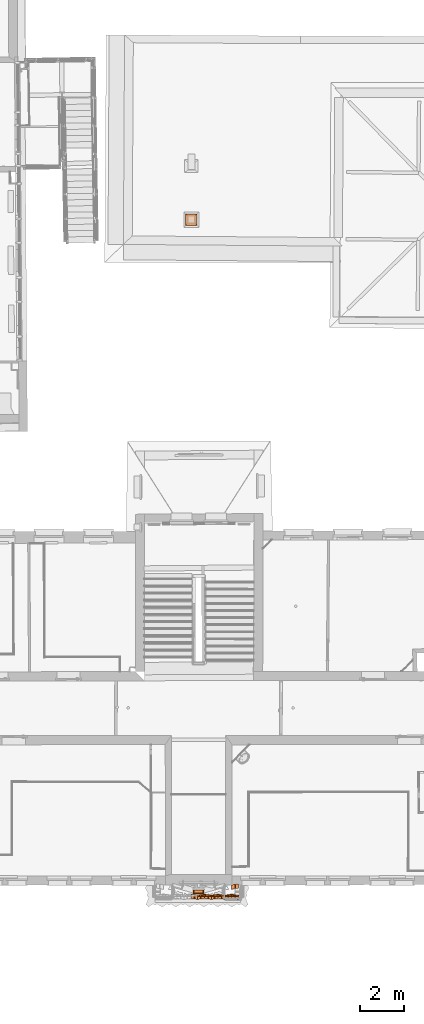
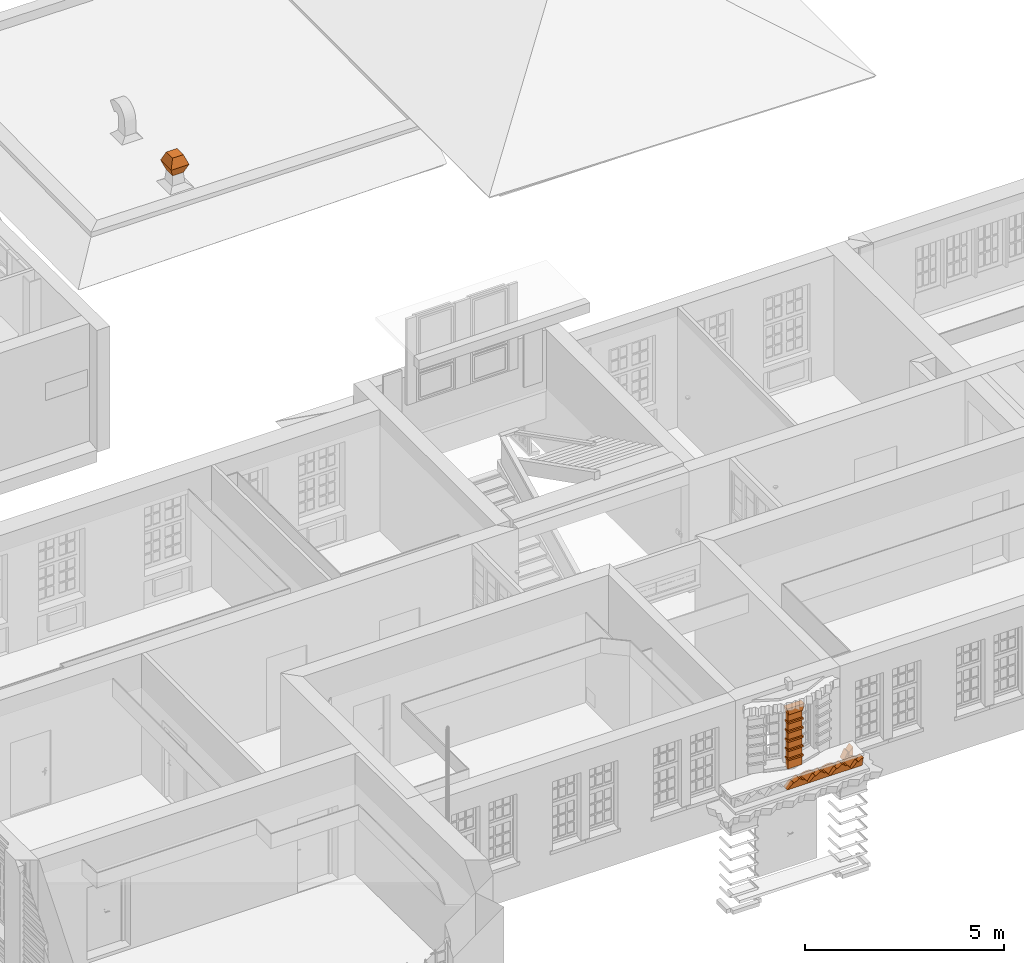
# One storey, part 141 of 158: 22 proxies.
"""IFC2X3 building model written with IfcOpenShell, lengths in metres."""

from ifc_helpers import new_model, entity, si_unit, converted_unit, derived_unit, money_unit, direction, frame, origin_with_axes, place, context, subcontext, project, spatial, faceted_brep, source, transform, mapped, material, type_object, element, save


model = new_model("IFC2X3")

# Units and contexts
model_context = context("Model", 3, precision=1e-05, world=origin_with_axes(), true_north=direction((0.0, 1.0)))
body_context = subcontext(model_context, "Body", "Model", "MODEL_VIEW")
ifc_project = project(units=[si_unit("LENGTHUNIT", "METRE"), si_unit("AREAUNIT", "SQUARE_METRE"), si_unit("VOLUMEUNIT", "CUBIC_METRE"), converted_unit("PLANEANGLEUNIT", "DEGREE", entity("IfcPlaneAngleMeasure", 0.0174532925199), si_unit("PLANEANGLEUNIT", "RADIAN"), dimensions=[0, 0, 0, 0, 0, 0, 0]), money_unit("EUR"), converted_unit("TIMEUNIT", "Year", entity("IfcTimeMeasure", 31556926.0), si_unit("TIMEUNIT", "SECOND"), dimensions=[0, 0, 1, 0, 0, 0, 0]), si_unit("MASSUNIT", "GRAM", prefix="KILO"), si_unit("THERMODYNAMICTEMPERATUREUNIT", "DEGREE_CELSIUS"), si_unit("LUMINOUSINTENSITYUNIT", "LUMEN"), si_unit("ENERGYUNIT", "JOULE", prefix="MEGA"), derived_unit("THERMALCONDUCTANCEUNIT", [(si_unit("POWERUNIT", "WATT"), 1), (si_unit("LENGTHUNIT", "METRE"), -1), (si_unit("THERMODYNAMICTEMPERATUREUNIT", "KELVIN"), -1)]), derived_unit("SPECIFICHEATCAPACITYUNIT", [(si_unit("ENERGYUNIT", "JOULE"), 1), (si_unit("MASSUNIT", "GRAM", prefix="KILO"), -1), (si_unit("THERMODYNAMICTEMPERATUREUNIT", "KELVIN"), -1)]), derived_unit("MASSDENSITYUNIT", [(si_unit("MASSUNIT", "GRAM", prefix="KILO"), 1), (si_unit("VOLUMEUNIT", "CUBIC_METRE"), -1)])], contexts=[model_context])

# Site, building, storey
site_placement = place(None, origin_with_axes())
site = spatial("IfcSite", under=ifc_project, at=site_placement, Name="Gelände", CompositionType="ELEMENT")
building_placement = place(site_placement, origin_with_axes())
building = spatial("IfcBuilding", under=site, at=building_placement, Name="Gebäude", CompositionType="ELEMENT")
storey_placement = place(building_placement, origin_with_axes())
storey = spatial("IfcBuildingStorey", under=building, at=storey_placement, Name="ERDGESCHOSS", CompositionType="ELEMENT", Elevation=0.0)

# Proxies
ifc_material = material(Name="01_ALLGEMEIN - BAUTEIL")
building_element_proxy_type = type_object("IfcBuildingElementProxyType", Name="01_ALLGEMEIN - BAUTEIL", PredefinedType="NOTDEFINED")
shared_shape_1 = source(origin_with_axes(), body_context, "Body", "Brep", [
    faceted_brep([(-0.405369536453, -0.125335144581, 0.282016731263), (-0.405369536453, -0.125335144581, 0.0), (0.0, -0.125335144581, 0.0), (0.0, -0.125335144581, 0.282016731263), (-0.405369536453, 0.0, 0.282016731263), (-0.405369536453, 0.0, 0.0), (0.0, 0.0, 0.0), (0.0, 0.0, 0.282016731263)], [[[0, 1, 2, 3]], [[1, 0, 4, 5]], [[5, 6, 2, 1]], [[3, 2, 6, 7]], [[0, 3, 7, 4]], [[6, 5, 4, 7]]]),
])
proxy_1_placement = place(storey_placement, frame((-7.58127992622, 9.62640158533, 1.2709685), z_axis=(0.0, 0.0, 1.0), x_axis=(-1.0, 0.0, 0.0)))
element("IfcBuildingElementProxy", 1, at=proxy_1_placement, inside=storey, type_object=building_element_proxy_type, material=ifc_material, Name="Morph-174", context=body_context, shape_type="MappedRepresentation", body=[
    mapped(shared_shape_1, transform((0.0, 0.0, 0.0))),
])
shared_shape_2 = source(origin_with_axes(), body_context, "Body", "Brep", [
    faceted_brep([(-0.02, -0.125335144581, 0.05), (0.425369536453, -0.125335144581, 0.05), (0.425369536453, 0.05, 0.05), (-0.02, 0.05, 0.05), (-0.02, -0.125335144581, 0.0), (0.425369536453, -0.125335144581, 0.0), (0.425369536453, 0.05, 0.0), (-0.02, 0.05, 0.0)], [[[0, 1, 2, 3]], [[0, 4, 5, 1]], [[1, 5, 6, 2]], [[6, 7, 3, 2]], [[4, 0, 3, 7]], [[7, 6, 5, 4]]]),
])
proxy_2_placement = place(storey_placement, frame((-7.17591038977, 9.62640158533, 1.55298523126), z_axis=(0.0, 0.0, 1.0), x_axis=(-1.0, 0.0, 0.0)))
element("IfcBuildingElementProxy", 2, at=proxy_2_placement, inside=storey, type_object=building_element_proxy_type, material=ifc_material, Name="Morph-175", context=body_context, shape_type="MappedRepresentation", body=[
    mapped(shared_shape_2, transform((0.0, 0.0, 0.0))),
])
shared_shape_3 = source(origin_with_axes(), body_context, "Body", "Brep", [
    faceted_brep([(-0.405369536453, -0.125335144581, 0.0), (-0.405369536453, -0.125335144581, -0.232016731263), (0.0, -0.125335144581, -0.232016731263), (0.0, -0.125335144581, 0.0), (-0.405369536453, 0.0, 0.0), (-0.405369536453, 0.0, -0.232016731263), (0.0, 0.0, -0.232016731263), (0.0, 0.0, 0.0)], [[[0, 1, 2, 3]], [[1, 0, 4, 5]], [[2, 1, 5, 6]], [[3, 2, 6, 7]], [[7, 4, 0, 3]], [[4, 7, 6, 5]]]),
])
proxy_3_placement = place(storey_placement, frame((-7.58127992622, 9.62640158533, 1.83500196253), z_axis=(0.0, 0.0, 1.0), x_axis=(-1.0, 0.0, 0.0)))
element("IfcBuildingElementProxy", 3, at=proxy_3_placement, inside=storey, type_object=building_element_proxy_type, material=ifc_material, Name="Morph-176", context=body_context, shape_type="MappedRepresentation", body=[
    mapped(shared_shape_3, transform((0.0, 0.0, 0.0))),
])
shared_shape_4 = source(origin_with_axes(), body_context, "Body", "Brep", [
    faceted_brep([(0.02, -0.125335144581, -0.05), (-0.425369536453, -0.125335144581, -0.05), (-0.425369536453, 0.05, -0.05), (0.02, 0.05, -0.05), (-0.425369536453, -0.125335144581, 0.0), (0.02, -0.125335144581, 0.0), (-0.425369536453, 0.05, 0.0), (0.02, 0.05, 0.0)], [[[0, 1, 2, 3]], [[4, 1, 0, 5]], [[1, 4, 6, 2]], [[6, 7, 3, 2]], [[5, 0, 3, 7]], [[7, 6, 4, 5]]]),
])
proxy_4_placement = place(storey_placement, frame((-7.58127992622, 9.62640158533, 1.88500196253), z_axis=(0.0, 0.0, 1.0), x_axis=(-1.0, 0.0, 0.0)))
element("IfcBuildingElementProxy", 4, at=proxy_4_placement, inside=storey, type_object=building_element_proxy_type, material=ifc_material, Name="Morph-177", context=body_context, shape_type="MappedRepresentation", body=[
    mapped(shared_shape_4, transform((0.0, 0.0, 0.0))),
])
shared_shape_5 = source(origin_with_axes(), body_context, "Body", "Brep", [
    faceted_brep([(-0.405369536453, -0.125335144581, 0.0), (-0.405369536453, -0.125335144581, -0.232016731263), (0.0, -0.125335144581, -0.232016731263), (0.0, -0.125335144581, 0.0), (-0.405369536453, 0.0, 0.0), (-0.405369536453, 0.0, -0.232016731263), (0.0, 0.0, -0.232016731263), (0.0, 0.0, 0.0)], [[[0, 1, 2, 3]], [[1, 0, 4, 5]], [[2, 1, 5, 6]], [[3, 2, 6, 7]], [[7, 4, 0, 3]], [[4, 7, 6, 5]]]),
])
proxy_5_placement = place(storey_placement, frame((-7.58127992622, 9.62640158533, 2.11701869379), z_axis=(0.0, 0.0, 1.0), x_axis=(-1.0, 0.0, 0.0)))
element("IfcBuildingElementProxy", 5, at=proxy_5_placement, inside=storey, type_object=building_element_proxy_type, material=ifc_material, Name="Morph-178", context=body_context, shape_type="MappedRepresentation", body=[
    mapped(shared_shape_5, transform((0.0, 0.0, 0.0))),
])
shared_shape_6 = source(origin_with_axes(), body_context, "Body", "Brep", [
    faceted_brep([(0.02, -0.125335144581, -0.05), (-0.425369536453, -0.125335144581, -0.05), (-0.425369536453, 0.05, -0.05), (0.02, 0.05, -0.05), (-0.425369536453, -0.125335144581, 0.0), (0.02, -0.125335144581, 0.0), (-0.425369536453, 0.05, 0.0), (0.02, 0.05, 0.0)], [[[0, 1, 2, 3]], [[4, 1, 0, 5]], [[1, 4, 6, 2]], [[6, 7, 3, 2]], [[5, 0, 3, 7]], [[7, 6, 4, 5]]]),
])
proxy_6_placement = place(storey_placement, frame((-7.58127992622, 9.62640158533, 2.16701869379), z_axis=(0.0, 0.0, 1.0), x_axis=(-1.0, 0.0, 0.0)))
element("IfcBuildingElementProxy", 6, at=proxy_6_placement, inside=storey, type_object=building_element_proxy_type, material=ifc_material, Name="Morph-179", context=body_context, shape_type="MappedRepresentation", body=[
    mapped(shared_shape_6, transform((0.0, 0.0, 0.0))),
])
shared_shape_7 = source(origin_with_axes(), body_context, "Body", "Brep", [
    faceted_brep([(-0.405369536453, -0.125335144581, 0.0), (-0.405369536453, -0.125335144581, -0.232016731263), (0.0, -0.125335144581, -0.232016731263), (0.0, -0.125335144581, 0.0), (-0.405369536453, 0.0, 0.0), (-0.405369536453, 0.0, -0.232016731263), (0.0, 0.0, -0.232016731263), (0.0, 0.0, 0.0)], [[[0, 1, 2, 3]], [[1, 0, 4, 5]], [[2, 1, 5, 6]], [[3, 2, 6, 7]], [[7, 4, 0, 3]], [[4, 7, 6, 5]]]),
])
proxy_7_placement = place(storey_placement, frame((-7.58127992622, 9.62640158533, 2.39903542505), z_axis=(0.0, 0.0, 1.0), x_axis=(-1.0, 0.0, 0.0)))
element("IfcBuildingElementProxy", 7, at=proxy_7_placement, inside=storey, type_object=building_element_proxy_type, material=ifc_material, Name="Morph-180", context=body_context, shape_type="MappedRepresentation", body=[
    mapped(shared_shape_7, transform((0.0, 0.0, 0.0))),
])
shared_shape_8 = source(origin_with_axes(), body_context, "Body", "Brep", [
    faceted_brep([(0.02, -0.125335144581, -0.05), (-0.425369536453, -0.125335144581, -0.05), (-0.425369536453, 0.05, -0.05), (0.02, 0.05, -0.05), (-0.425369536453, -0.125335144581, 0.0), (0.02, -0.125335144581, 0.0), (-0.425369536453, 0.05, 0.0), (0.02, 0.05, 0.0)], [[[0, 1, 2, 3]], [[4, 1, 0, 5]], [[1, 4, 6, 2]], [[6, 7, 3, 2]], [[5, 0, 3, 7]], [[7, 6, 4, 5]]]),
])
proxy_8_placement = place(storey_placement, frame((-7.58127992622, 9.62640158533, 2.44903542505), z_axis=(0.0, 0.0, 1.0), x_axis=(-1.0, 0.0, 0.0)))
element("IfcBuildingElementProxy", 8, at=proxy_8_placement, inside=storey, type_object=building_element_proxy_type, material=ifc_material, Name="Morph-181", context=body_context, shape_type="MappedRepresentation", body=[
    mapped(shared_shape_8, transform((0.0, 0.0, 0.0))),
])
shared_shape_9 = source(origin_with_axes(), body_context, "Body", "Brep", [
    faceted_brep([(-0.405369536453, -0.125335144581, 0.0), (-0.405369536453, -0.125335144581, -0.232016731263), (0.0, -0.125335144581, -0.232016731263), (0.0, -0.125335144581, 0.0), (-0.405369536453, 0.0, 0.0), (-0.405369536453, 0.0, -0.232016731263), (0.0, 0.0, -0.232016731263), (0.0, 0.0, 0.0)], [[[0, 1, 2, 3]], [[1, 0, 4, 5]], [[2, 1, 5, 6]], [[3, 2, 6, 7]], [[7, 4, 0, 3]], [[4, 7, 6, 5]]]),
])
proxy_9_placement = place(storey_placement, frame((-7.58127992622, 9.62640158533, 2.68105215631), z_axis=(0.0, 0.0, 1.0), x_axis=(-1.0, 0.0, 0.0)))
element("IfcBuildingElementProxy", 9, at=proxy_9_placement, inside=storey, type_object=building_element_proxy_type, material=ifc_material, Name="Morph-182", context=body_context, shape_type="MappedRepresentation", body=[
    mapped(shared_shape_9, transform((0.0, 0.0, 0.0))),
])
shared_shape_10 = source(origin_with_axes(), body_context, "Body", "Brep", [
    faceted_brep([(0.02, -0.125335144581, -0.05), (-0.425369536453, -0.125335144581, -0.05), (-0.425369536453, 0.05, -0.05), (0.02, 0.05, -0.05), (-0.425369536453, -0.125335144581, 0.0), (0.02, -0.125335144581, 0.0), (-0.425369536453, 0.05, 0.0), (0.02, 0.05, 0.0)], [[[0, 1, 2, 3]], [[4, 1, 0, 5]], [[1, 4, 6, 2]], [[6, 7, 3, 2]], [[5, 0, 3, 7]], [[7, 6, 4, 5]]]),
])
proxy_10_placement = place(storey_placement, frame((-7.58127992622, 9.62640158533, 2.73105215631), z_axis=(0.0, 0.0, 1.0), x_axis=(-1.0, 0.0, 0.0)))
element("IfcBuildingElementProxy", 10, at=proxy_10_placement, inside=storey, type_object=building_element_proxy_type, material=ifc_material, Name="Morph-183", context=body_context, shape_type="MappedRepresentation", body=[
    mapped(shared_shape_10, transform((0.0, 0.0, 0.0))),
])
shared_shape_11 = source(origin_with_axes(), body_context, "Body", "Brep", [
    faceted_brep([(-0.405369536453, -0.125335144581, 0.0), (-0.405369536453, -0.125335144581, -0.232016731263), (0.0, -0.125335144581, -0.232016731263), (0.0, -0.125335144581, 0.0), (-0.405369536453, 0.0, 0.0), (-0.405369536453, 0.0, -0.232016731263), (0.0, 0.0, -0.232016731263), (0.0, 0.0, 0.0)], [[[0, 1, 2, 3]], [[1, 0, 4, 5]], [[2, 1, 5, 6]], [[3, 2, 6, 7]], [[7, 4, 0, 3]], [[4, 7, 6, 5]]]),
])
proxy_11_placement = place(storey_placement, frame((-7.58127992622, 9.62640158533, 2.96306888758), z_axis=(0.0, 0.0, 1.0), x_axis=(-1.0, 0.0, 0.0)))
element("IfcBuildingElementProxy", 11, at=proxy_11_placement, inside=storey, type_object=building_element_proxy_type, material=ifc_material, Name="Morph-184", context=body_context, shape_type="MappedRepresentation", body=[
    mapped(shared_shape_11, transform((0.0, 0.0, 0.0))),
])
shared_shape_12 = source(origin_with_axes(), body_context, "Body", "Brep", [
    faceted_brep([(-0.505369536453, 0.05, 0.0), (-0.505369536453, -0.125335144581, 0.0), (0.0, -0.125335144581, 0.0), (0.0, 0.05, 0.0), (-0.455369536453, -0.125335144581, -0.194111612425), (-0.455369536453, 0.05, -0.194111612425), (-0.05, -0.125335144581, -0.194111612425), (-0.05, 0.05, -0.194111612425)], [[[0, 1, 2, 3]], [[4, 1, 0, 5]], [[1, 4, 6, 2]], [[6, 7, 3, 2]], [[7, 5, 0, 3]], [[5, 7, 6, 4]]]),
])
proxy_12_placement = place(storey_placement, frame((-7.63127992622, 9.62640158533, 3.1571805), z_axis=(0.0, 0.0, 1.0), x_axis=(-1.0, 0.0, 0.0)))
element("IfcBuildingElementProxy", 12, at=proxy_12_placement, inside=storey, type_object=building_element_proxy_type, material=ifc_material, Name="Morph-185", context=body_context, shape_type="MappedRepresentation", body=[
    mapped(shared_shape_12, transform((0.0, 0.0, 0.0))),
])
shared_shape_13 = source(origin_with_axes(), body_context, "Body", "Brep", [
    faceted_brep([(-0.302076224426, 0.0, 0.0689469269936), (-0.279160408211, 0.0, 0.134436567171), (-0.279160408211, 0.05, 0.134436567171), (-0.302076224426, 0.05, 0.0689469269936), (-0.309844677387, 0.0, 0.0), (0.309844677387, 0.0, 0.0), (0.302076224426, 0.0, 0.0689469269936), (0.279160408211, 0.0, 0.134436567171), (0.242246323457, 0.0, 0.193184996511), (0.193184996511, 0.0, 0.242246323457), (0.134436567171, 0.0, 0.279160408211), (0.0689469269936, 0.0, 0.302076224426), (0.0, 0.0, 0.309844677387), (-0.0689469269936, 0.0, 0.302076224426), (-0.134436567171, 0.0, 0.279160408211), (-0.193184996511, 0.0, 0.242246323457), (-0.242246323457, 0.0, 0.193184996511), (-0.242246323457, 0.05, 0.193184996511), (-0.309844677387, 0.05, 0.0), (-0.193184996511, 0.05, 0.242246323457), (-0.134436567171, 0.05, 0.279160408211), (-0.0689469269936, 0.05, 0.302076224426), (0.0, 0.05, 0.309844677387), (0.0689469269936, 0.05, 0.302076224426), (0.134436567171, 0.05, 0.279160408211), (0.193184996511, 0.05, 0.242246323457), (0.242246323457, 0.05, 0.193184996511), (0.279160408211, 0.05, 0.134436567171), (0.302076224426, 0.05, 0.0689469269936), (0.309844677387, 0.05, 0.0)], [[[0, 1, 2, 3]], [[0, 4, 5, 6, 7, 8, 9, 10, 11, 12, 13, 14, 15, 16, 1]], [[1, 16, 17, 2]], [[18, 3, 2, 17, 19, 20, 21, 22, 23, 24, 25, 26, 27, 28, 29]], [[4, 0, 3, 18]], [[4, 18, 29, 5]], [[6, 5, 29, 28]], [[27, 7, 6, 28]], [[8, 7, 27, 26]], [[9, 8, 26, 25]], [[10, 9, 25, 24]], [[11, 10, 24, 23]], [[12, 11, 23, 22]], [[13, 12, 22, 21]], [[14, 13, 21, 20]], [[15, 14, 20, 19]], [[16, 15, 19, 17]]]),
])
for number, where, z_axis, x_axis, name in (
    (13, (-5.87443196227, 9.47253947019, 0.8259985), (0.0, 0.0, 1.0), (1.0, 0.0, 0.0), "Morph-186"),
    (14, (-7.11381067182, 9.47253947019, 0.8259985), (0.0, 0.0, 1.0), (1.0, 0.0, 0.0), "Morph-186"),
    (15, (-6.49412131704, 9.47253947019, 0.8259985), (0.0, 0.0, 1.0), (1.0, 0.0, 0.0), "Morph-186"),
):
    element("IfcBuildingElementProxy", number, at=place(storey_placement, frame(where, z_axis=z_axis, x_axis=x_axis)), inside=storey, type_object=building_element_proxy_type, material=ifc_material, Name=name, context=body_context, shape_type="MappedRepresentation", body=[
        mapped(shared_shape_13, transform((0.0, 0.0, 0.0))),
    ])
shared_shape_14 = source(origin_with_axes(), body_context, "Body", "Brep", [
    faceted_brep([(-0.105921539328, -0.421296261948, 0.676382), (-0.105921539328, 0.105921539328, 0.676382), (0.417273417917, 0.105921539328, 0.676382), (0.417273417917, -0.421296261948, 0.676382), (0.0, -0.31537472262, 0.949425), (0.0, 0.0, 0.949425), (0.311351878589, 0.0, 0.949425), (0.311351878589, -0.31537472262, 0.949425)], [[[0, 1, 2, 3]], [[1, 0, 4, 5]], [[1, 5, 6, 2]], [[6, 7, 3, 2]], [[4, 0, 3, 7]], [[4, 7, 6, 5]]]),
])
for number, where, z_axis, x_axis, name in (
    (16, (-7.87110913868, 40.3717446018, 0.716725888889), (0.0, 0.0, 1.0), (1.0, 0.0, 0.0), "Morph-293"),
    (17, (-7.87110913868, 40.0563698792, 2.06948988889), (0.0, 0.0, -1.0), (1.0, 0.0, 0.0), "Morph-293"),
):
    element("IfcBuildingElementProxy", number, at=place(storey_placement, frame(where, z_axis=z_axis, x_axis=x_axis)), inside=storey, type_object=building_element_proxy_type, material=ifc_material, Name=name, context=body_context, shape_type="MappedRepresentation", body=[
        mapped(shared_shape_14, transform((0.0, 0.0, 0.0))),
    ])
shared_shape_15 = source(origin_with_axes(), body_context, "Body", "Brep", [
    faceted_brep([(0.309844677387, -0.200000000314, 0.0), (0.309844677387, -0.0628254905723, 0.0), (0.309844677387, -0.0628254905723, 0.286749), (0.309844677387, -0.262825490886, 0.286749), (0.178958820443, -0.200000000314, 0.0), (0.150128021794, -0.200000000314, 0.0), (0.0, -0.200000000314, 0.0), (0.0, 0.0, 0.0), (0.150128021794, -0.0440829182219, 0.0), (0.178958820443, -0.0358064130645, 0.0), (0.178958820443, -0.0358064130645, 0.175572), (0.178958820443, -0.235806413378, 0.175572), (0.150128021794, -0.244082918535, 0.19807), (0.150128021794, -0.0440829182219, 0.19807)], [[[0, 1, 2, 3]], [[0, 4, 5, 6, 7, 8, 9, 1]], [[1, 9, 10, 2]], [[3, 2, 11]], [[11, 0, 3]], [[4, 0, 11]], [[11, 5, 4]], [[12, 6, 5]], [[13, 7, 6]], [[8, 7, 13]], [[9, 8, 13, 10]], [[11, 2, 10]], [[12, 5, 11]], [[13, 6, 12]], [[10, 13, 11]], [[11, 13, 12]]]),
])
proxy_13_placement = place(storey_placement, frame((-5.87443196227, 9.58536496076, 0.8259985), z_axis=(0.0, 0.0, 1.0), x_axis=(1.0, 0.0, 0.0)))
element("IfcBuildingElementProxy", 18, at=proxy_13_placement, inside=storey, type_object=building_element_proxy_type, material=ifc_material, Name="Morph-302", context=body_context, shape_type="MappedRepresentation", body=[
    mapped(shared_shape_15, transform((0.0, 0.0, 0.0))),
])
shared_shape_16 = source(origin_with_axes(), body_context, "Body", "Brep", [
    faceted_brep([(-0.46956133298, -0.200000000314, 0.0), (-0.46956133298, -0.244082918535, 0.19807), (-0.619689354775, -0.200000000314, 0.0), (-0.440730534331, -0.235806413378, 0.175572), (-0.46956133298, -0.0440829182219, 0.19807), (-0.440730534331, -0.200000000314, 0.0), (-0.619689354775, 0.0, 0.0), (-0.46956133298, -0.0440829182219, 0.0), (-0.440730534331, -0.0358064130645, 0.0), (-0.309844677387, -0.0628254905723, 0.0), (-0.178958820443, -0.0358064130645, 0.0), (-0.150128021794, -0.0440829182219, 0.0), (0.0, 0.0, 0.0), (0.0, -0.200000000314, 0.0), (-0.150128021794, -0.200000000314, 0.0), (-0.178958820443, -0.200000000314, 0.0), (-0.309844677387, -0.200000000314, 0.0), (-0.440730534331, -0.0358064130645, 0.175572), (-0.309844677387, -0.0628254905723, 0.286749), (-0.178958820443, -0.0358064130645, 0.175572), (-0.150128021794, -0.0440829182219, 0.19807), (-0.150128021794, -0.244082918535, 0.19807), (-0.178958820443, -0.235806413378, 0.175572), (-0.309844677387, -0.262825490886, 0.286749)], [[[0, 1, 2]], [[1, 0, 3]], [[2, 1, 4]], [[5, 0, 2, 6, 7, 8, 9, 10, 11, 12, 13, 14, 15, 16]], [[5, 3, 0]], [[1, 3, 4]], [[2, 4, 6]], [[4, 7, 6]], [[7, 4, 17, 8]], [[9, 8, 17, 18]], [[9, 18, 19, 10]], [[10, 19, 20, 11]], [[11, 20, 12]], [[20, 13, 12]], [[21, 14, 13]], [[22, 15, 14]], [[15, 22, 16]], [[3, 5, 16]], [[4, 3, 17]], [[17, 3, 18]], [[22, 19, 18]], [[19, 22, 20]], [[21, 13, 20]], [[14, 21, 22]], [[23, 16, 22]], [[3, 16, 23]], [[3, 23, 18]], [[23, 22, 18]], [[22, 21, 20]]]),
])
for number, where, z_axis, x_axis, name in (
    (19, (-6.49412131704, 9.58536496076, 0.8259985), (0.0, 0.0, 1.0), (1.0, 0.0, 0.0), "Morph-302"),
    (20, (-7.11381067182, 9.58536496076, 0.8259985), (0.0, 0.0, 1.0), (1.0, 0.0, 0.0), "Morph-302"),
    (21, (-5.87443196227, 9.58536496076, 0.8259985), (0.0, 0.0, 1.0), (1.0, 0.0, 0.0), "Morph-302"),
):
    element("IfcBuildingElementProxy", number, at=place(storey_placement, frame(where, z_axis=z_axis, x_axis=x_axis)), inside=storey, type_object=building_element_proxy_type, material=ifc_material, Name=name, context=body_context, shape_type="MappedRepresentation", body=[
        mapped(shared_shape_16, transform((0.0, 0.0, 0.0))),
    ])
shared_shape_17 = source(origin_with_axes(), body_context, "Body", "Brep", [
    faceted_brep([(-0.309844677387, -0.200000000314, 0.0), (-0.309844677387, -0.262825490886, 0.286749), (-0.309844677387, -0.0628254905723, 0.286749), (-0.309844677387, -0.0628254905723, 0.0), (-0.178958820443, -0.235806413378, 0.175572), (-0.178958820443, -0.0358064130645, 0.175572), (-0.178958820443, -0.0358064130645, 0.0), (-0.150128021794, -0.0440829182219, 0.0), (0.0, 0.0, 0.0), (0.0, -0.200000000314, 0.0), (-0.150128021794, -0.200000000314, 0.0), (-0.178958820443, -0.200000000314, 0.0), (-0.150128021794, -0.0440829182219, 0.19807), (-0.150128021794, -0.244082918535, 0.19807)], [[[0, 1, 2, 3]], [[4, 1, 0]], [[1, 4, 2]], [[3, 2, 5, 6]], [[0, 3, 6, 7, 8, 9, 10, 11]], [[11, 4, 0]], [[4, 5, 2]], [[6, 5, 12, 7]], [[7, 12, 8]], [[12, 9, 8]], [[13, 10, 9]], [[4, 11, 10]], [[5, 4, 12]], [[12, 13, 9]], [[13, 4, 10]], [[4, 13, 12]]]),
])
proxy_14_placement = place(storey_placement, frame((-5.87443196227, 9.7791472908, 0.8259985), z_axis=(0.0, 0.0, 1.0), x_axis=(-1.0, 0.0, 0.0)))
element("IfcBuildingElementProxy", 22, at=proxy_14_placement, inside=storey, type_object=building_element_proxy_type, material=ifc_material, Name="Morph-302", context=body_context, shape_type="MappedRepresentation", body=[
    mapped(shared_shape_17, transform((0.0, 0.0, 0.0))),
])

save(model, "model.ifc")
